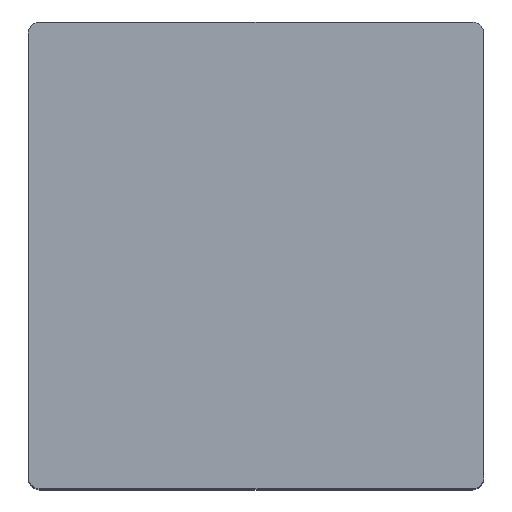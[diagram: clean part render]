
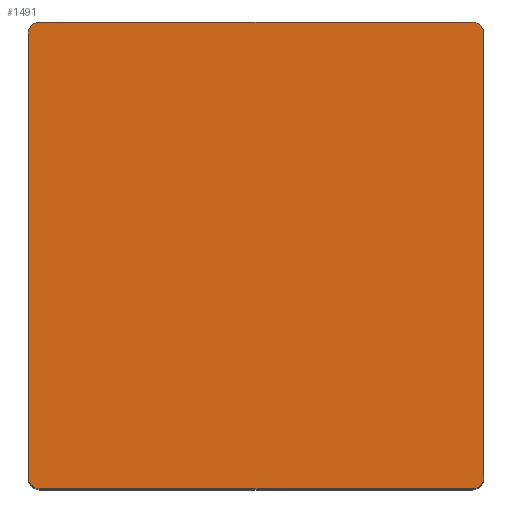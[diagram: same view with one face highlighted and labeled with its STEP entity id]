
A CAD part, top view. The second image highlights one B-rep face of the part: STEP entity #1491.
In plain terms, the highlighted planar face has unit normal (0, 0, 1).
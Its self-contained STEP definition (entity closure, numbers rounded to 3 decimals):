
#12=DIRECTION('',(1.0,0.0,0.0));
#1418=DIRECTION('',(-0.0,0.,1.0));
#1419=CARTESIAN_POINT('',(0.0,0.0,58.8));
#1420=AXIS2_PLACEMENT_3D('',#1419,#1418,#12);
#1421=PLANE('',#1420);
#1422=DIRECTION('',(1.0,0.,0.0));
#1423=VECTOR('',#1422,38.0);
#1424=CARTESIAN_POINT('',(1.0,41.0,58.8));
#1425=LINE('',#1424,#1423);
#1426=CARTESIAN_POINT('',(39.0,41.,58.8));
#1427=VERTEX_POINT('',#1426);
#1428=VERTEX_POINT('',#1424);
#1429=EDGE_CURVE('',#1428,#1427,#1425,.T.);
#1430=ORIENTED_EDGE('',*,*,#1429,.F.);
#1431=CARTESIAN_POINT('',(40.,40.,58.8));
#1432=CARTESIAN_POINT('',(40.,40.191,58.8));
#1433=CARTESIAN_POINT('',(39.854,40.561,58.8));
#1434=CARTESIAN_POINT('',(39.561,40.854,58.8));
#1435=CARTESIAN_POINT('',(39.191,41.0,58.8));
#1436=(BOUNDED_CURVE()B_SPLINE_CURVE(2,(#1426,#1435,#1434,#1433,#1432,#1431),.UNSPECIFIED.,.U.,.U.)B_SPLINE_CURVE_WITH_KNOTS((3,1,1,1,3),(0.0,0.25,0.5,0.75,1.0),.UNSPECIFIED.)CURVE()GEOMETRIC_REPRESENTATION_ITEM()RATIONAL_B_SPLINE_CURVE((1.0,0.927,0.854,0.854,0.927,1.0))REPRESENTATION_ITEM(''));
#1437=VERTEX_POINT('',#1431);
#1438=EDGE_CURVE('',#1427,#1437,#1436,.T.);
#1439=ORIENTED_EDGE('',*,*,#1438,.F.);
#1440=DIRECTION('',(0.,-1.0,0.));
#1441=VECTOR('',#1440,39.0);
#1442=LINE('',#1431,#1441);
#1443=CARTESIAN_POINT('',(40.0,1.,58.8));
#1444=VERTEX_POINT('',#1443);
#1445=EDGE_CURVE('',#1437,#1444,#1442,.T.);
#1446=ORIENTED_EDGE('',*,*,#1445,.F.);
#1447=CARTESIAN_POINT('',(39.,0.,58.8));
#1448=CARTESIAN_POINT('',(39.191,0.,58.8));
#1449=CARTESIAN_POINT('',(39.561,0.146,58.8));
#1450=CARTESIAN_POINT('',(39.854,0.439,58.8));
#1451=CARTESIAN_POINT('',(40.,0.809,58.8));
#1452=(BOUNDED_CURVE()B_SPLINE_CURVE(2,(#1443,#1451,#1450,#1449,#1448,#1447),.UNSPECIFIED.,.U.,.U.)B_SPLINE_CURVE_WITH_KNOTS((3,1,1,1,3),(0.0,0.25,0.5,0.75,1.0),.UNSPECIFIED.)CURVE()GEOMETRIC_REPRESENTATION_ITEM()RATIONAL_B_SPLINE_CURVE((1.0,0.927,0.854,0.854,0.927,1.0))REPRESENTATION_ITEM(''));
#1453=CARTESIAN_POINT('',(39.,0.,58.8));
#1454=VERTEX_POINT('',#1453);
#1455=EDGE_CURVE('',#1444,#1454,#1452,.T.);
#1456=ORIENTED_EDGE('',*,*,#1455,.F.);
#1457=DIRECTION('',(-1.0,0.,0.0));
#1458=VECTOR('',#1457,38.0);
#1459=LINE('',#1453,#1458);
#1460=CARTESIAN_POINT('',(1.,0.,58.8));
#1461=VERTEX_POINT('',#1460);
#1462=EDGE_CURVE('',#1454,#1461,#1459,.T.);
#1463=ORIENTED_EDGE('',*,*,#1462,.F.);
#1464=CARTESIAN_POINT('',(0.,1.0,58.8));
#1465=CARTESIAN_POINT('',(0.,0.809,58.8));
#1466=CARTESIAN_POINT('',(0.146,0.439,58.8));
#1467=CARTESIAN_POINT('',(0.439,0.146,58.8));
#1468=CARTESIAN_POINT('',(0.809,0.,58.8));
#1469=(BOUNDED_CURVE()B_SPLINE_CURVE(2,(#1460,#1468,#1467,#1466,#1465,#1464),.UNSPECIFIED.,.U.,.U.)B_SPLINE_CURVE_WITH_KNOTS((3,1,1,1,3),(0.0,0.25,0.5,0.75,1.0),.UNSPECIFIED.)CURVE()GEOMETRIC_REPRESENTATION_ITEM()RATIONAL_B_SPLINE_CURVE((1.0,0.927,0.854,0.854,0.927,1.0))REPRESENTATION_ITEM(''));
#1470=CARTESIAN_POINT('',(0.,1.0,58.8));
#1471=VERTEX_POINT('',#1470);
#1472=EDGE_CURVE('',#1461,#1471,#1469,.T.);
#1473=ORIENTED_EDGE('',*,*,#1472,.F.);
#1474=DIRECTION('',(0.,1.0,0.));
#1475=VECTOR('',#1474,39.0);
#1476=LINE('',#1470,#1475);
#1477=CARTESIAN_POINT('',(0.,40.0,58.8));
#1478=VERTEX_POINT('',#1477);
#1479=EDGE_CURVE('',#1471,#1478,#1476,.T.);
#1480=ORIENTED_EDGE('',*,*,#1479,.F.);
#1481=CARTESIAN_POINT('',(1.,41.0,58.8));
#1482=CARTESIAN_POINT('',(0.809,41.0,58.8));
#1483=CARTESIAN_POINT('',(0.439,40.854,58.8));
#1484=CARTESIAN_POINT('',(0.146,40.561,58.8));
#1485=CARTESIAN_POINT('',(0.0,40.191,58.8));
#1486=(BOUNDED_CURVE()B_SPLINE_CURVE(2,(#1477,#1485,#1484,#1483,#1482,#1481),.UNSPECIFIED.,.U.,.U.)B_SPLINE_CURVE_WITH_KNOTS((3,1,1,1,3),(0.0,0.25,0.5,0.75,1.0),.UNSPECIFIED.)CURVE()GEOMETRIC_REPRESENTATION_ITEM()RATIONAL_B_SPLINE_CURVE((1.0,0.927,0.854,0.854,0.927,1.0))REPRESENTATION_ITEM(''));
#1487=EDGE_CURVE('',#1478,#1428,#1486,.T.);
#1488=ORIENTED_EDGE('',*,*,#1487,.F.);
#1489=EDGE_LOOP('',(#1488,#1480,#1473,#1463,#1456,#1446,#1439,#1430));
#1490=FACE_BOUND('',#1489,.T.);
#1491=ADVANCED_FACE('',(#1490),#1421,.T.);
